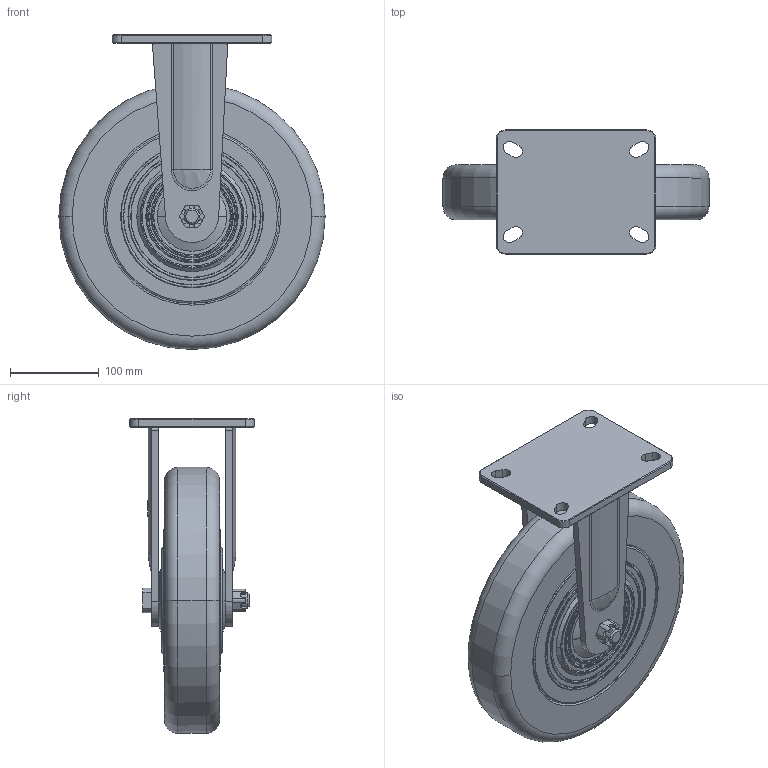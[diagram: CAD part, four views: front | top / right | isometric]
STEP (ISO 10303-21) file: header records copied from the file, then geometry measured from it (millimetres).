
FILE_DESCRIPTION(/* description */ (''),/* implementation_level */ '2;1');
FILE_NAME(/* name */ '35B15_12_F.stp',/* time_stamp */ '2022-08-27T16:58:07+08:00',/* author */ (''),/* organization */ (''),/* preprocessor_version */ 'ST-DEVELOPER v14',/* originating_system */ 'SIEMENS PLM Software NX 8.0',/* authorisation */ '');
FILE_SCHEMA (('AUTOMOTIVE_DESIGN { 1 0 10303 214 3 1 1 1 }'));
Length unit declared in the file: millimetre
Products named in the file (1): 35B15_12_F
Bounding box: 300 x 140 x 355 mm (x, y, z)
Volume: 4120052.8 mm3; surface area: 462535.3 mm2
Topology: 1 solids, 3 shells, 562 faces, 1373 edges, 870 vertices
Faces by surface type: plane 243, torus 152, cylinder 123, cone 34, bspline 8, extrusion 2
Entity records: 18965 total; most frequent: CARTESIAN_POINT 5171, DIRECTION 3185, ORIENTED_EDGE 2746, EDGE_CURVE 1373, AXIS2_PLACEMENT_3D 1354, VERTEX_POINT 870, EDGE_LOOP 631, CIRCLE 617
